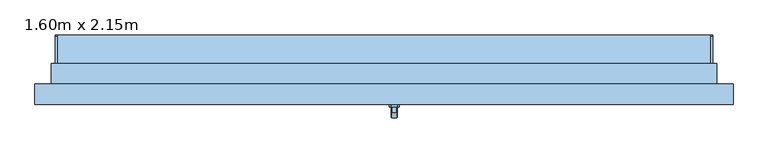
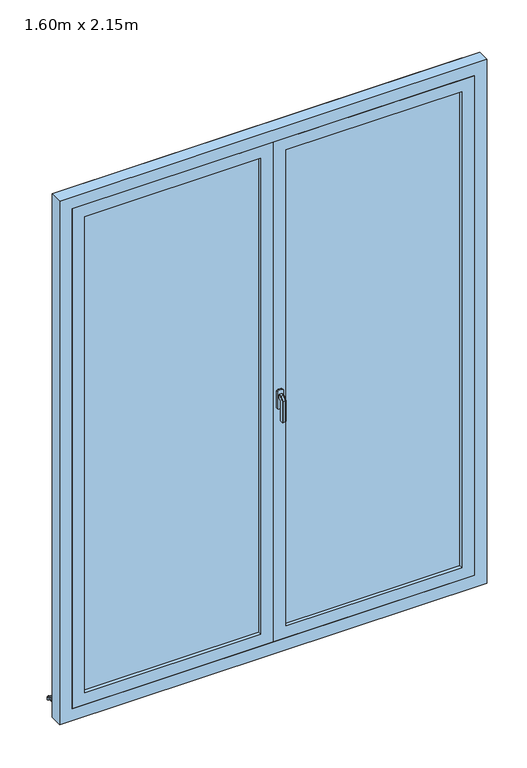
"""IFC4 building model written with IfcOpenShell, lengths in millimetres: window geometry, PF 2 Vantaux - Droits : 1.60m x 2.15m."""

from ifc_helpers import new_model, si_unit, point, frame, frame_2d, origin, place, context, project, spatial, polyline, circle_curve, trimmed, segment, composite_curve, outline, extrude, faceted_brep, source, transform, mapped, element, save


def window_1_60m_x_2_15m_1bfb613b(model_context):
    return source(origin(), model_context, "Body", "SolidModel", [
        faceted_brep([(30.6460097, -86.0, 1122.0339292), (32.0339292, -86.0, 1120.6460097), (32.0339292, -86.0, 1109.3323012), (30.6676988, -86.0, 1107.9660708), (19.3323012, -86.0, 1107.9660708), (17.9660708, -86.0, 1109.3323012), (17.9660708, -86.0, 1120.6460097), (19.3539903, -86.0, 1122.0339292), (30.6460097, -98.9135489, 1122.0339292), (32.0339292, -98.3386538, 1120.6460097), (32.0339292, -111.6460097, 1107.3386538), (32.0339292, -111.6460097, 1020.0), (32.0339292, -100.3323012, 1020.0), (32.0339292, -100.3323012, 1102.6523623), (32.0339292, -93.6523623, 1109.3323012), (30.6676988, -93.0864511, 1107.9660708), (19.3323012, -93.0864511, 1107.9660708), (17.9660708, -93.6523623, 1109.3323012), (17.9660708, -100.3323012, 1102.6523623), (17.9660708, -100.3323012, 1020.0), (17.9660708, -111.6460097, 1020.0), (17.9660708, -111.6460097, 1107.3386538), (17.9660708, -98.3386538, 1120.6460097), (19.3539903, -98.9135489, 1122.0339292), (30.6460097, -113.0339292, 1107.9135489), (30.6676988, -98.9660708, 1102.0864511), (19.3323012, -98.9660708, 1102.0864511), (19.3539903, -113.0339292, 1107.9135489), (30.6460097, -113.0339292, 1020.0), (19.3539903, -113.0339292, 1020.0), (19.3323012, -98.9660708, 1020.0), (30.6676988, -98.9660708, 1020.0)], [[[0, 1, 2, 3, 4, 5, 6, 7]], [[1, 0, 8, 9]], [[2, 1, 9, 10, 11, 12, 13, 14]], [[3, 2, 14, 15]], [[4, 3, 15, 16]], [[5, 4, 16, 17]], [[6, 5, 17, 18, 19, 20, 21, 22]], [[7, 6, 22, 23]], [[0, 7, 23, 8]], [[9, 8, 24, 10]], [[15, 14, 13, 25]], [[16, 15, 25, 26]], [[17, 16, 26, 18]], [[23, 22, 21, 27]], [[8, 23, 27, 24]], [[28, 29, 20, 19, 30, 31, 12, 11]], [[10, 24, 28, 11]], [[25, 13, 12, 31]], [[26, 25, 31, 30]], [[18, 26, 30, 19]], [[27, 21, 20, 29]], [[24, 27, 29, 28]]]),
        extrude(outline(polyline([(1140.0, 32.0), (1140.0, 18.0), (1135.0, 13.0), (1065.0, 13.0), (1060.0, 18.0), (1060.0, 32.0), (1065.0, 37.0), (1135.0, 37.0), (1140.0, 32.0)])), frame((0.0, -86.0, 0.0), z_axis=(0.0, 1.0, 0.0), x_axis=(0.0, 0.0, 1.0)), (0.0, 0.0, 1.0), 6.0),
        extrude(outline(polyline([(90.0288776, 30.7927954), (90.0288776, 19.7145929), (85.0288776, 20.2401141), (85.0288776, 26.0631048), (0.0, 35.0), (0.0, 50.0), (5.0, 50.0), (5.0, 39.7296906), (90.0288776, 30.7927954)])), frame((-800.0, 0.0, 0.0), z_axis=(1.0, 0.0, 0.0), x_axis=(0.0, 1.0, 0.0)), (0.0, 0.0, 1.0), 1600.0),
        extrude(outline(composite_curve([segment(polyline([(90.0288776, 30.7927954), (5.0, 39.7296906), (5.0, 44.757232), (86.4469915, 36.1968082)]), True, "CONTINUOUS"), segment(trimmed(circle_curve(frame_2d((86.0288776, 32.2187207)), 4.0), [point((86.4469915, 36.1968082))], [point((90.0288776, 32.2187207))], False, "CARTESIAN"), True, "CONTINUOUS"), segment(polyline([(90.0288776, 32.2187207), (90.0288776, 30.7927954)]), True, "CONTINUOUS")], self_intersect=False)), frame((-800.0, 0.0, 0.0), z_axis=(1.0, 0.0, 0.0), x_axis=(0.0, 1.0, 0.0)), (0.0, 0.0, 1.0), 5.0),
        extrude(outline(composite_curve([segment(polyline([(90.0288776, 30.7927954), (5.0, 39.7296906), (5.0, 44.757232), (86.4469915, 36.1968082)]), True, "CONTINUOUS"), segment(trimmed(circle_curve(frame_2d((86.0288776, 32.2187207)), 4.0), [point((86.4469915, 36.1968082))], [point((90.0288776, 32.2187207))], False, "CARTESIAN"), True, "CONTINUOUS"), segment(polyline([(90.0288776, 32.2187207), (90.0288776, 30.7927954)]), True, "CONTINUOUS")], self_intersect=False)), frame((795.0, 0.0, 0.0), z_axis=(1.0, 0.0, 0.0), x_axis=(0.0, 1.0, 0.0)), (0.0, 0.0, 1.0), 5.0),
        extrude(outline(polyline([(85.0, 0.0), (2185.0, 0.0), (2185.0, -800.0), (85.0, -800.0), (85.0, 0.0)]), holes=[polyline([(135.0, -750.0), (2135.0, -750.0), (2135.0, -50.0), (135.0, -50.0), (135.0, -750.0)])]), frame((0.0, -80.0, 0.0), z_axis=(0.0, 1.0, 0.0), x_axis=(0.0, 0.0, 1.0)), (0.0, 0.0, 1.0), 40.0),
        extrude(outline(polyline([(50.0, -54.0), (750.0, -54.0), (750.0, -66.0), (50.0, -66.0), (50.0, -54.0)])), frame((0.0, 0.0, 135.0), z_axis=(0.0, 0.0, 1.0), x_axis=(1.0, 0.0, 0.0)), (0.0, 0.0, 1.0), 2000.0),
        extrude(outline(polyline([(-750.0, -54.0), (-50.0, -54.0), (-50.0, -66.0), (-750.0, -66.0), (-750.0, -54.0)])), frame((0.0, 0.0, 135.0), z_axis=(0.0, 0.0, 1.0), x_axis=(1.0, 0.0, 0.0)), (0.0, 0.0, 1.0), 2000.0),
        extrude(outline(polyline([(85.0, 800.0), (2185.0, 800.0), (2185.0, 0.0), (85.0, 0.0), (85.0, 800.0)]), holes=[polyline([(135.0, 50.0), (2135.0, 50.0), (2135.0, 750.0), (135.0, 750.0), (135.0, 50.0)])]), frame((0.0, -80.0, 0.0), z_axis=(0.0, 1.0, 0.0), x_axis=(0.0, 0.0, 1.0)), (0.0, 0.0, 1.0), 40.0),
        faceted_brep([(-850.0, -80.0, 35.0), (-850.0, -30.0, 35.0), (-800.0, -30.0, 35.0), (-800.0, 0.0, 35.0), (800.0, 0.0, 35.0), (800.0, -30.0, 35.0), (850.0, -30.0, 35.0), (850.0, -80.0, 35.0), (-850.0, -80.0, 2235.0), (-850.0, -30.0, 2235.0), (850.0, -30.0, 2235.0), (800.0, -30.0, 74.3761425), (-800.0, -30.0, 74.3761425), (-785.0, -30.0, 2170.0), (-785.0, -30.0, 100.0), (785.0, -30.0, 100.0), (785.0, -30.0, 2170.0), (-800.0, 20.0, 60.9786829), (-800.0, 20.0, 45.0), (-800.0, 10.0, 45.0), (-800.0, 10.0, 50.0), (-800.0, 0.0, 50.0), (800.0, 0.0, 50.0), (800.0, 10.0, 50.0), (800.0, 10.0, 45.0), (800.0, 20.0, 45.0), (800.0, 20.0, 60.9786829), (850.0, -80.0, 2235.0), (800.0, -80.0, 2185.0), (800.0, -80.0, 85.0), (-800.0, -80.0, 85.0), (-800.0, -80.0, 2185.0), (-785.0, -40.0, 2170.0), (-785.0, -40.0, 100.0), (785.0, -40.0, 100.0), (785.0, -40.0, 2170.0), (800.0, -40.0, 2185.0), (-800.0, -40.0, 2185.0), (-800.0, -40.0, 85.0), (800.0, -40.0, 85.0)], [[[0, 1, 2, 3, 4, 5, 6, 7]], [[1, 0, 8, 9]], [[1, 9, 10, 6, 5, 11, 12, 2], [13, 14, 15, 16]], [[12, 17, 18, 19, 20, 21, 3, 2]], [[3, 21, 22, 4]], [[4, 22, 23, 24, 25, 26, 11, 5]], [[6, 10, 27, 7]], [[0, 7, 27, 8], [28, 29, 30, 31]], [[13, 32, 33, 14]], [[33, 34, 15, 14]], [[35, 16, 15, 34]], [[17, 12, 11, 26]], [[36, 37, 38, 39], [32, 35, 34, 33]], [[38, 37, 31, 30]], [[30, 29, 39, 38]], [[28, 36, 39, 29]], [[18, 17, 26, 25]], [[19, 18, 25, 24]], [[20, 19, 24, 23]], [[21, 20, 23, 22]], [[13, 16, 35, 32]], [[37, 36, 28, 31]], [[10, 9, 8, 27]]]),
        extrude(outline(polyline([(35.0, -810.0), (35.0, -800.0), (2185.0, -800.0), (2185.0, 800.0), (35.0, 800.0), (35.0, 810.0), (2195.0, 810.0), (2195.0, -810.0), (35.0, -810.0)])), frame((0.0, -30.0, 0.0), z_axis=(0.0, 1.0, 0.0), x_axis=(0.0, 0.0, 1.0)), (0.0, 0.0, 1.0), 50.0),
        extrude(outline(polyline([(20.0, -32.0), (20.0, -40.0), (-20.0, -40.0), (-20.0, -32.0), (20.0, -32.0)])), frame((0.0, 0.0, 100.0), z_axis=(0.0, 0.0, 1.0), x_axis=(1.0, 0.0, 0.0)), (0.0, 0.0, 1.0), 2070.0),
    ])


if __name__ == "__main__":
    model = new_model("IFC4")
    model_context = context("Model", 3, world=origin())
    ifc_project = project(units=[si_unit("LENGTHUNIT", "METRE", prefix="MILLI")], contexts=[model_context])
    site = spatial("IfcSite", under=ifc_project)
    building = spatial("IfcBuilding", under=site)
    placement = place(None, origin())
    window_1_60m_x_2_15m_shape = window_1_60m_x_2_15m_1bfb613b(model_context)
    element("IfcWindow", 1, ObjectType="PF 2 Vantaux - Droits : 1.60m x 2.15m", at=placement, inside=building, context=model_context, shape_type="MappedRepresentation", body=[
        mapped(window_1_60m_x_2_15m_shape, transform((0.0, 0.0, 0.0), x_axis=(1.0, 0.0, 0.0), y_axis=(0.0, 1.0, 0.0), z_axis=(0.0, 0.0, 1.0))),
    ])
    save(model, "model.ifc")
